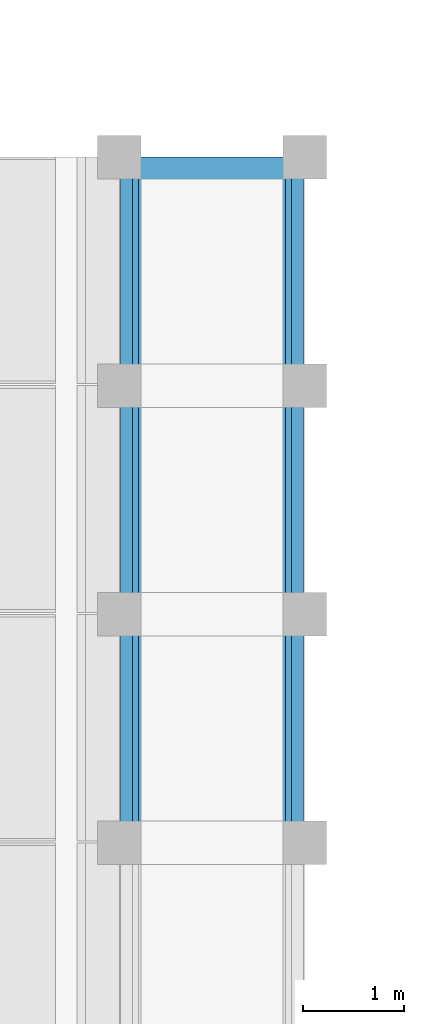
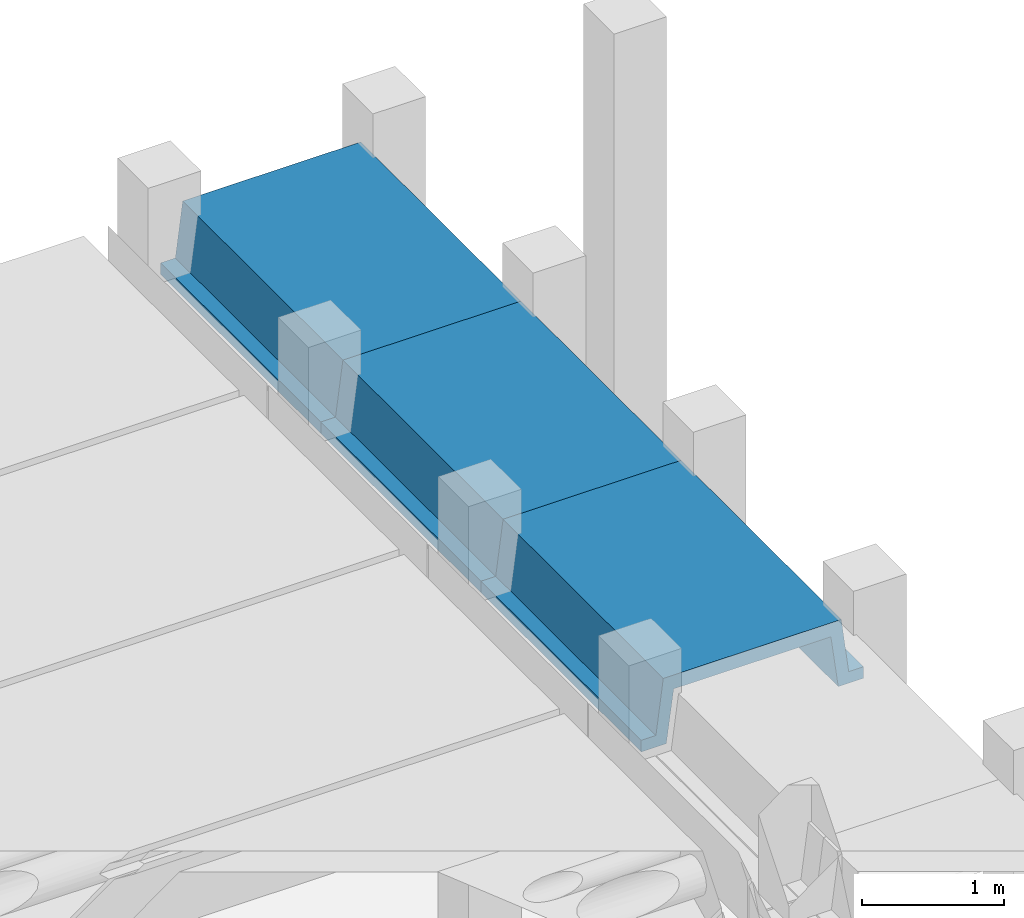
# One storey, part 15 of 21: 3 beams.
"""IFC2X3 building model written with IfcOpenShell, lengths in millimetres."""

from ifc_helpers import new_model, entity, si_unit, converted_unit, derived_unit, direction, frame, origin, place, context, subcontext, project, spatial, polyline, outline, extrude, material, type_object, element, save


model = new_model("IFC2X3")

# Units and contexts
model_context = context("Model", 3, precision=0.01, world=origin(), true_north=direction((6.12303176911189e-17, 1.0)))
body_context = subcontext(model_context, "Body", "Model", "MODEL_VIEW")
ifc_project = project(units=[si_unit("LENGTHUNIT", "METRE", prefix="MILLI"), si_unit("AREAUNIT", "SQUARE_METRE"), si_unit("VOLUMEUNIT", "CUBIC_METRE"), converted_unit("PLANEANGLEUNIT", "DEGREE", entity("IfcRatioMeasure", 0.0174532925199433), si_unit("PLANEANGLEUNIT", "RADIAN"), dimensions=[0, 0, 0, 0, 0, 0, 0]), si_unit("MASSUNIT", "GRAM", prefix="KILO"), derived_unit("MASSDENSITYUNIT", [(si_unit("MASSUNIT", "GRAM", prefix="KILO"), 1), (si_unit("LENGTHUNIT", "METRE"), -3)]), derived_unit("MOMENTOFINERTIAUNIT", [(si_unit("LENGTHUNIT", "METRE"), 4)]), si_unit("TIMEUNIT", "SECOND"), si_unit("FREQUENCYUNIT", "HERTZ"), si_unit("THERMODYNAMICTEMPERATUREUNIT", "DEGREE_CELSIUS"), derived_unit("THERMALTRANSMITTANCEUNIT", [(si_unit("MASSUNIT", "GRAM", prefix="KILO"), 1), (si_unit("THERMODYNAMICTEMPERATUREUNIT", "KELVIN"), -1), (si_unit("TIMEUNIT", "SECOND"), -3)]), derived_unit("VOLUMETRICFLOWRATEUNIT", [(si_unit("LENGTHUNIT", "METRE"), 3), (si_unit("TIMEUNIT", "SECOND"), -1)]), si_unit("ELECTRICCURRENTUNIT", "AMPERE"), si_unit("ELECTRICVOLTAGEUNIT", "VOLT"), si_unit("POWERUNIT", "WATT"), si_unit("FORCEUNIT", "NEWTON", prefix="KILO"), si_unit("ILLUMINANCEUNIT", "LUX"), si_unit("LUMINOUSFLUXUNIT", "LUMEN"), si_unit("LUMINOUSINTENSITYUNIT", "CANDELA"), derived_unit("USERDEFINED", [(si_unit("MASSUNIT", "GRAM", prefix="KILO"), -1), (si_unit("LENGTHUNIT", "METRE"), -2), (si_unit("TIMEUNIT", "SECOND"), 3), (si_unit("LUMINOUSFLUXUNIT", "LUMEN"), 1)]), derived_unit("LINEARVELOCITYUNIT", [(si_unit("LENGTHUNIT", "METRE"), 1), (si_unit("TIMEUNIT", "SECOND"), -1)]), si_unit("PRESSUREUNIT", "PASCAL"), derived_unit("USERDEFINED", [(si_unit("LENGTHUNIT", "METRE"), -2), (si_unit("MASSUNIT", "GRAM", prefix="KILO"), 1), (si_unit("TIMEUNIT", "SECOND"), -2)]), derived_unit("LINEARFORCEUNIT", [(si_unit("MASSUNIT", "GRAM", prefix="KILO"), 1), (si_unit("LENGTHUNIT", "METRE"), 1), (si_unit("TIMEUNIT", "SECOND"), -2), (si_unit("LENGTHUNIT", "METRE"), -1)]), derived_unit("PLANARFORCEUNIT", [(si_unit("MASSUNIT", "GRAM", prefix="KILO"), 1), (si_unit("LENGTHUNIT", "METRE"), 1), (si_unit("TIMEUNIT", "SECOND"), -2), (si_unit("LENGTHUNIT", "METRE"), -2)])], contexts=[model_context])

# Site, building, storey
site_placement = place(None, frame((10627.5135316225, 21939.0796949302, 0.0)))
site = spatial("IfcSite", under=ifc_project, at=site_placement, Name="Default", CompositionType="ELEMENT")
building_placement = place(site_placement, origin())
building = spatial("IfcBuilding", under=site, at=building_placement, CompositionType="ELEMENT")
storey_placement = place(building_placement, frame((0.0, 0.0, 7320.0)))
storey = spatial("IfcBuildingStorey", under=building, at=storey_placement, Name="R+2", CompositionType="ELEMENT", Elevation=7320.0)

# Beams
ifc_material = material(Name="Concrete, Precast Smooth, Light Grey")
beam_type = type_object("IfcBeamType", Name="Poutre petite:Poutre petite", PredefinedType="NOTDEFINED")
beam_1_placement = place(storey_placement, frame((667.48646837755, 14220.9203050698, 3530.00034615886), z_axis=(0.0, 0.0, 1.0), x_axis=(0.0, 1.0, 0.0)))
element("IfcBeam", 1, at=beam_1_placement, inside=storey, type_object=beam_type, material=ifc_material, Name="Poutre petite:Poutre petite", ObjectType="Poutre petite:Poutre petite", context=body_context, shape_type="SweptSolid", body=[
    extrude(outline(polyline([(103.333217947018, -905.013684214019), (203.333564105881, -905.013684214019), (203.333564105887, -700.013730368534), (-246.666782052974, -640.013684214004), (-246.666782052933, 640.013497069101), (203.333564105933, 700.013543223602), (203.333564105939, 905.014058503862), (103.333217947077, 905.014058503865), (103.333217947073, 785.01349706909), (-366.666782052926, 725.013497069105), (-366.666782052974, -725.013684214), (103.333217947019, -785.013684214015), (103.333217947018, -905.013684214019)])), frame((0.0, -0.000187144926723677, -366.66678205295), z_axis=(1.0, 0.0, 0.0), x_axis=(0.0, 0.0, -1.0)), (0.0, 0.0, 1.0), 2260.0),
])
beam_2_placement = place(storey_placement, frame((667.486468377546, 11960.9203050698, 3530.00034615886), z_axis=(0.0, 0.0, 1.0), x_axis=(0.0, 1.0, 0.0)))
element("IfcBeam", 2, at=beam_2_placement, inside=storey, type_object=beam_type, material=ifc_material, Name="Poutre petite:Poutre petite", ObjectType="Poutre petite:Poutre petite", context=body_context, shape_type="SweptSolid", body=[
    extrude(outline(polyline([(103.333217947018, -905.013684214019), (203.333564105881, -905.013684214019), (203.333564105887, -700.013730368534), (-246.666782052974, -640.013684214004), (-246.666782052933, 640.013497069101), (203.333564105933, 700.013543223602), (203.333564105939, 905.014058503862), (103.333217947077, 905.014058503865), (103.333217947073, 785.01349706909), (-366.666782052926, 725.013497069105), (-366.666782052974, -725.013684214), (103.333217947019, -785.013684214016), (103.333217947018, -905.013684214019)])), frame((0.0, -0.000187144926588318, -366.66678205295), z_axis=(1.0, 0.0, 0.0), x_axis=(0.0, 0.0, -1.0)), (0.0, 0.0, 1.0), 2260.0),
])
beam_3_placement = place(storey_placement, frame((667.48646837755, 9700.9203050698, 3530.00034615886), z_axis=(0.0, 0.0, 1.0), x_axis=(0.0, 1.0, 0.0)))
element("IfcBeam", 3, at=beam_3_placement, inside=storey, type_object=beam_type, material=ifc_material, Name="Poutre petite:Poutre petite", ObjectType="Poutre petite:Poutre petite", context=body_context, shape_type="SweptSolid", body=[
    extrude(outline(polyline([(103.333217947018, -905.013684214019), (203.333564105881, -905.013684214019), (203.333564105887, -700.013730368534), (-246.666782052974, -640.013684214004), (-246.666782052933, 640.013497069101), (203.333564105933, 700.013543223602), (203.333564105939, 905.014058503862), (103.333217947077, 905.014058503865), (103.333217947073, 785.01349706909), (-366.666782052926, 725.013497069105), (-366.666782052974, -725.013684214), (103.333217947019, -785.013684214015), (103.333217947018, -905.013684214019)])), frame((0.0, -0.000187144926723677, -366.66678205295), z_axis=(1.0, 0.0, 0.0), x_axis=(0.0, 0.0, -1.0)), (0.0, 0.0, 1.0), 2260.0),
])

save(model, "model.ifc")
